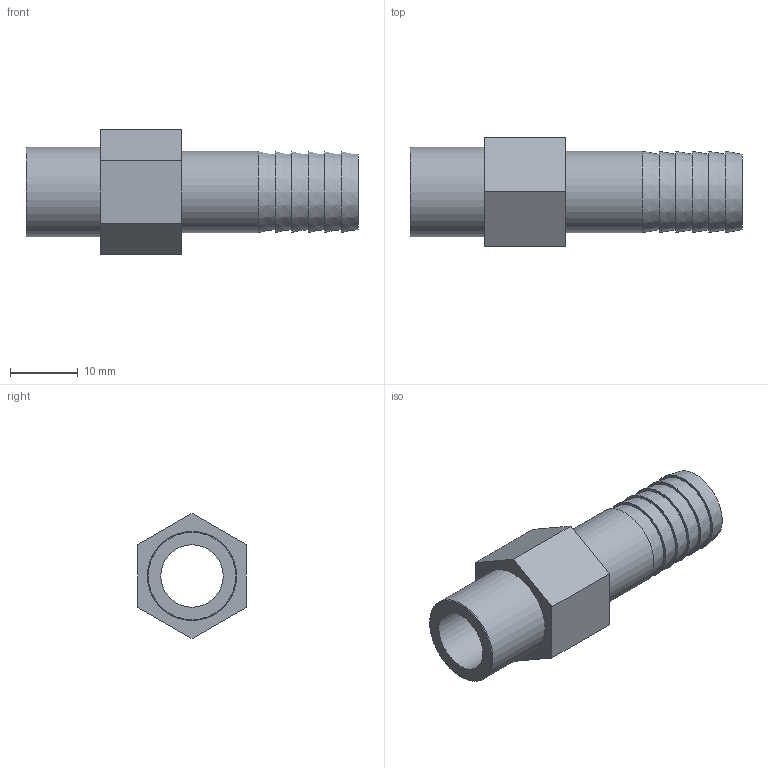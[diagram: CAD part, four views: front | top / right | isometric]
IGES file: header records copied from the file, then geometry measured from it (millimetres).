
Global section: file name: 053601012004.ipt; native system: Autodesk Inventor 2015; preprocessor: unknown; author: KIM; date: 20171207.165521; units: millimetre
Bounding box: 49 x 16 x 18.48 mm (x, y, z)
Volume: 3715.2 mm3; surface area: 3876.8 mm2
Topology: 1 solids, 1 shells, 25 faces, 50 edges, 34 vertices
Faces by surface type: plane 15, cone 6, revolution 2, cylinder 2
Full cylindrical faces by diameter (mm): 12 x1, 13.157 x1
